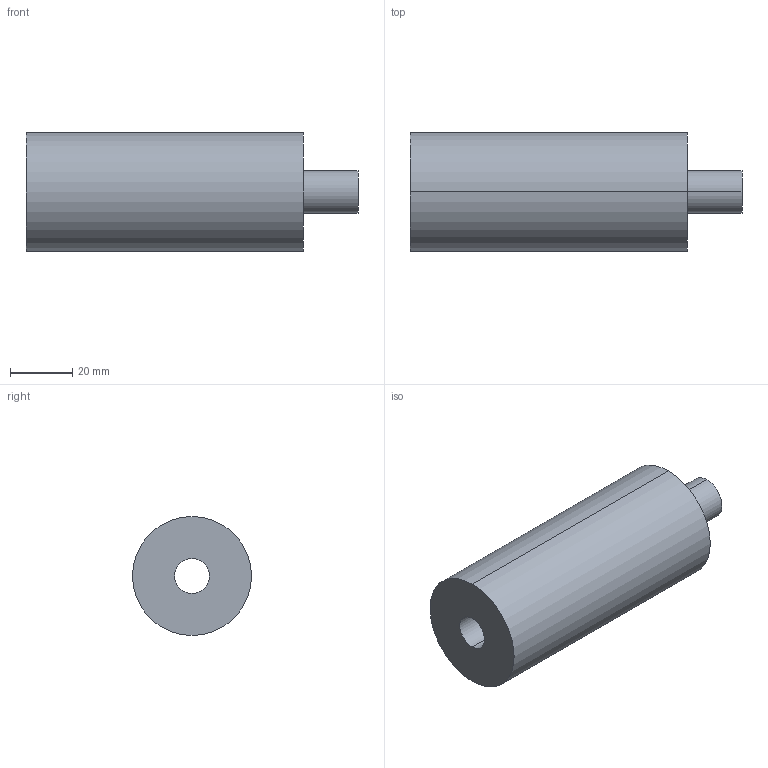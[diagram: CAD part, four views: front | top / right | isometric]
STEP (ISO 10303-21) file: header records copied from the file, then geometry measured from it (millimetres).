
FILE_DESCRIPTION (( 'STEP AP203' ), '1' );
FILE_NAME ('BPS4902_V0.STEP', '2018-04-02T09:02:59', ( '' ), ( '' ), 'SwSTEP 2.0', 'SolidWorks 2017', '' );
FILE_SCHEMA (( 'CONFIG_CONTROL_DESIGN' ));
Length unit declared in the file: millimetre
Products named in the file (2): BPS4902_V0
Bounding box: 106.38 x 38.1 x 38.1 mm (x, y, z)
Volume: 93501 mm3; surface area: 17212.7 mm2
Topology: 1 solids, 1 shells, 9 faces, 18 edges, 12 vertices
Faces by surface type: cylinder 6, plane 3
Entity records: 403 total; most frequent: DIRECTION 52, CARTESIAN_POINT 41, ORIENTED_EDGE 36, AXIS2_PLACEMENT_3D 23, EDGE_CURVE 18, PERSON_AND_ORGANIZATION 16, EDGE_LOOP 12, VERTEX_POINT 12
